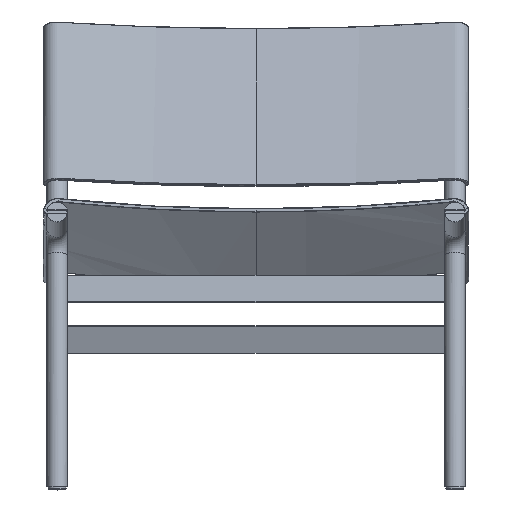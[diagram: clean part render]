
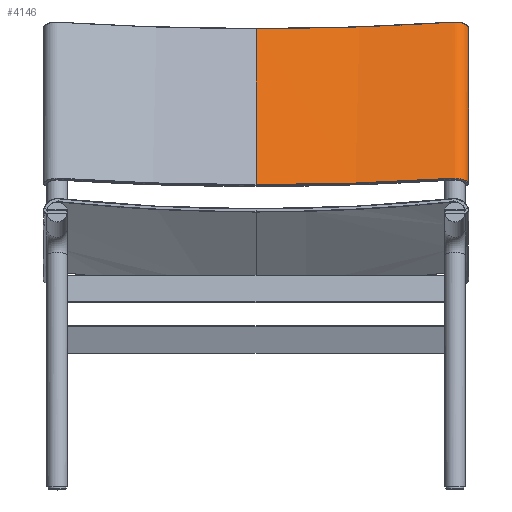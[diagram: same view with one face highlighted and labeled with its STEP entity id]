
A CAD part, front view. The second image highlights one B-rep face of the part: STEP entity #4146.
In plain terms, the highlighted free-form (B-spline) face has degree [3, 1] with [21, 2] control points.
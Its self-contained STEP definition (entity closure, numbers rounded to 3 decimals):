
#397=LINE('',#8385,#612);
#398=LINE('',#8428,#613);
#612=VECTOR('',#5140,10.);
#613=VECTOR('',#5141,10.);
#833=FACE_OUTER_BOUND('',#1129,.T.);
#1129=EDGE_LOOP('',(#2827,#2828,#2829,#2830));
#1650=B_SPLINE_CURVE_WITH_KNOTS('',3,(#7306,#7307,#7308,#7309,#7310,#7311,
#7312,#7313,#7314,#7315,#7316,#7317,#7318,#7319,#7320,#7321,#7322,#7323,
#7324,#7325,#7326),.UNSPECIFIED.,.F.,.F.,(4,3,1,1,3,1,1,1,3,1,1,1,4),(-1.,
-0.919,-0.917,-0.916,-0.914,
-0.895,-0.876,-0.867,-0.848,
-0.727,-0.485,-0.242,0.),
 .UNSPECIFIED.);
#1660=B_SPLINE_CURVE_WITH_KNOTS('',3,(#8322,#8323,#8324,#8325,#8326,#8327,
#8328,#8329,#8330,#8331,#8332,#8333,#8334,#8335,#8336,#8337,#8338,#8339,
#8340,#8341,#8342),.UNSPECIFIED.,.F.,.F.,(4,1,1,1,3,1,1,1,3,1,1,3,4),(0.,
0.242,0.485,0.727,0.848,
0.867,0.876,0.895,0.914,
0.916,0.917,0.919,1.),.UNSPECIFIED.);
#1783=VERTEX_POINT('',#7076);
#1785=VERTEX_POINT('',#7300);
#1791=VERTEX_POINT('',#8188);
#1792=VERTEX_POINT('',#8316);
#2156=EDGE_CURVE('',#1785,#1783,#1650,.T.);
#2170=EDGE_CURVE('',#1791,#1792,#1660,.T.);
#2171=EDGE_CURVE('',#1791,#1783,#397,.T.);
#2172=EDGE_CURVE('',#1792,#1785,#398,.T.);
#2827=ORIENTED_EDGE('',*,*,#2156,.F.);
#2828=ORIENTED_EDGE('',*,*,#2172,.F.);
#2829=ORIENTED_EDGE('',*,*,#2170,.F.);
#2830=ORIENTED_EDGE('',*,*,#2171,.T.);
#4039=B_SPLINE_SURFACE_WITH_KNOTS('',3,1,((#8386,#8387),(#8388,#8389),(#8390,
#8391),(#8392,#8393),(#8394,#8395),(#8396,#8397),(#8398,#8399),(#8400,#8401),
(#8402,#8403),(#8404,#8405),(#8406,#8407),(#8408,#8409),(#8410,#8411),(#8412,
#8413),(#8414,#8415),(#8416,#8417),(#8418,#8419),(#8420,#8421),(#8422,#8423),
(#8424,#8425),(#8426,#8427)),.UNSPECIFIED.,.F.,.F.,.F.,(4,1,1,1,3,1,1,1,
3,1,1,3,4),(2,2),(0.,0.242,0.485,0.727,
0.848,0.867,0.876,0.895,
0.914,0.916,0.917,0.919,
1.),(0.,30.31),.UNSPECIFIED.);
#4146=ADVANCED_FACE('',(#833),#4039,.F.);
#5140=DIRECTION('',(0.,-0.886,-0.465));
#5141=DIRECTION('',(0.,-0.886,-0.465));
#7076=CARTESIAN_POINT('',(-285.21,432.816,77.541));
#7300=CARTESIAN_POINT('',(-556.864,431.655,79.755));
#7306=CARTESIAN_POINT('Ctrl Pts',(-556.864,431.655,79.755));
#7307=CARTESIAN_POINT('Ctrl Pts',(-565.901,431.655,79.755));
#7308=CARTESIAN_POINT('Ctrl Pts',(-574.938,431.655,79.755));
#7309=CARTESIAN_POINT('Ctrl Pts',(-583.975,431.655,79.755));
#7310=CARTESIAN_POINT('Ctrl Pts',(-585.017,431.655,79.755));
#7311=CARTESIAN_POINT('Ctrl Pts',(-587.093,431.914,79.262));
#7312=CARTESIAN_POINT('Ctrl Pts',(-589.781,433.147,76.91));
#7313=CARTESIAN_POINT('Ctrl Pts',(-590.175,434.436,74.453));
#7314=CARTESIAN_POINT('Ctrl Pts',(-589.785,435.139,73.113));
#7315=CARTESIAN_POINT('Ctrl Pts',(-589.09,436.388,70.732));
#7316=CARTESIAN_POINT('Ctrl Pts',(-586.565,438.75,66.23));
#7317=CARTESIAN_POINT('Ctrl Pts',(-581.107,440.855,62.217));
#7318=CARTESIAN_POINT('Ctrl Pts',(-574.624,442.06,59.92));
#7319=CARTESIAN_POINT('Ctrl Pts',(-570.379,442.196,59.66));
#7320=CARTESIAN_POINT('Ctrl Pts',(-567.628,442.016,60.003));
#7321=CARTESIAN_POINT('Ctrl Pts',(-554.268,441.142,61.671));
#7322=CARTESIAN_POINT('Ctrl Pts',(-514.13,438.704,66.318));
#7323=CARTESIAN_POINT('Ctrl Pts',(-446.991,435.574,72.284));
#7324=CARTESIAN_POINT('Ctrl Pts',(-366.165,433.318,76.585));
#7325=CARTESIAN_POINT('Ctrl Pts',(-312.195,432.816,77.541));
#7326=CARTESIAN_POINT('Ctrl Pts',(-285.21,432.816,77.541));
#8188=CARTESIAN_POINT('',(-285.21,656.489,194.874));
#8316=CARTESIAN_POINT('',(-556.864,655.328,197.088));
#8322=CARTESIAN_POINT('Ctrl Pts',(-285.21,656.489,194.874));
#8323=CARTESIAN_POINT('Ctrl Pts',(-312.195,656.489,194.874));
#8324=CARTESIAN_POINT('Ctrl Pts',(-366.165,656.991,193.918));
#8325=CARTESIAN_POINT('Ctrl Pts',(-446.991,659.247,189.618));
#8326=CARTESIAN_POINT('Ctrl Pts',(-514.13,662.376,183.651));
#8327=CARTESIAN_POINT('Ctrl Pts',(-554.268,664.814,179.004));
#8328=CARTESIAN_POINT('Ctrl Pts',(-567.628,665.689,177.336));
#8329=CARTESIAN_POINT('Ctrl Pts',(-570.379,665.869,176.993));
#8330=CARTESIAN_POINT('Ctrl Pts',(-574.624,665.733,177.254));
#8331=CARTESIAN_POINT('Ctrl Pts',(-581.107,664.528,179.551));
#8332=CARTESIAN_POINT('Ctrl Pts',(-586.565,662.423,183.563));
#8333=CARTESIAN_POINT('Ctrl Pts',(-589.09,660.061,188.065));
#8334=CARTESIAN_POINT('Ctrl Pts',(-589.785,658.812,190.446));
#8335=CARTESIAN_POINT('Ctrl Pts',(-590.175,658.109,191.786));
#8336=CARTESIAN_POINT('Ctrl Pts',(-589.781,656.82,194.243));
#8337=CARTESIAN_POINT('Ctrl Pts',(-587.093,655.587,196.595));
#8338=CARTESIAN_POINT('Ctrl Pts',(-585.017,655.328,197.088));
#8339=CARTESIAN_POINT('Ctrl Pts',(-583.975,655.328,197.088));
#8340=CARTESIAN_POINT('Ctrl Pts',(-574.938,655.328,197.088));
#8341=CARTESIAN_POINT('Ctrl Pts',(-565.901,655.328,197.088));
#8342=CARTESIAN_POINT('Ctrl Pts',(-556.864,655.328,197.088));
#8385=CARTESIAN_POINT('',(-285.21,656.489,194.874));
#8386=CARTESIAN_POINT('Ctrl Pts',(-285.21,656.489,194.874));
#8387=CARTESIAN_POINT('Ctrl Pts',(-285.21,388.082,54.074));
#8388=CARTESIAN_POINT('Ctrl Pts',(-312.195,656.489,194.874));
#8389=CARTESIAN_POINT('Ctrl Pts',(-312.195,388.082,54.074));
#8390=CARTESIAN_POINT('Ctrl Pts',(-366.165,656.991,193.918));
#8391=CARTESIAN_POINT('Ctrl Pts',(-366.165,388.583,53.118));
#8392=CARTESIAN_POINT('Ctrl Pts',(-446.991,659.247,189.618));
#8393=CARTESIAN_POINT('Ctrl Pts',(-446.991,390.839,48.818));
#8394=CARTESIAN_POINT('Ctrl Pts',(-514.13,662.376,183.651));
#8395=CARTESIAN_POINT('Ctrl Pts',(-514.13,393.969,42.852));
#8396=CARTESIAN_POINT('Ctrl Pts',(-554.268,664.814,179.004));
#8397=CARTESIAN_POINT('Ctrl Pts',(-554.268,396.407,38.204));
#8398=CARTESIAN_POINT('Ctrl Pts',(-567.628,665.689,177.336));
#8399=CARTESIAN_POINT('Ctrl Pts',(-567.628,397.282,36.536));
#8400=CARTESIAN_POINT('Ctrl Pts',(-570.379,665.869,176.993));
#8401=CARTESIAN_POINT('Ctrl Pts',(-570.379,397.462,36.193));
#8402=CARTESIAN_POINT('Ctrl Pts',(-574.624,665.733,177.254));
#8403=CARTESIAN_POINT('Ctrl Pts',(-574.624,397.325,36.454));
#8404=CARTESIAN_POINT('Ctrl Pts',(-581.107,664.528,179.551));
#8405=CARTESIAN_POINT('Ctrl Pts',(-581.107,396.12,38.751));
#8406=CARTESIAN_POINT('Ctrl Pts',(-586.565,662.423,183.563));
#8407=CARTESIAN_POINT('Ctrl Pts',(-586.565,394.016,42.763));
#8408=CARTESIAN_POINT('Ctrl Pts',(-589.09,660.061,188.065));
#8409=CARTESIAN_POINT('Ctrl Pts',(-589.09,391.654,47.265));
#8410=CARTESIAN_POINT('Ctrl Pts',(-589.785,658.812,190.446));
#8411=CARTESIAN_POINT('Ctrl Pts',(-589.785,390.405,49.646));
#8412=CARTESIAN_POINT('Ctrl Pts',(-590.175,658.109,191.786));
#8413=CARTESIAN_POINT('Ctrl Pts',(-590.175,389.702,50.987));
#8414=CARTESIAN_POINT('Ctrl Pts',(-589.781,656.82,194.243));
#8415=CARTESIAN_POINT('Ctrl Pts',(-589.781,388.413,53.443));
#8416=CARTESIAN_POINT('Ctrl Pts',(-587.093,655.587,196.595));
#8417=CARTESIAN_POINT('Ctrl Pts',(-587.093,387.179,55.795));
#8418=CARTESIAN_POINT('Ctrl Pts',(-585.017,655.328,197.088));
#8419=CARTESIAN_POINT('Ctrl Pts',(-585.017,386.921,56.288));
#8420=CARTESIAN_POINT('Ctrl Pts',(-583.975,655.328,197.088));
#8421=CARTESIAN_POINT('Ctrl Pts',(-583.975,386.921,56.288));
#8422=CARTESIAN_POINT('Ctrl Pts',(-574.938,655.328,197.088));
#8423=CARTESIAN_POINT('Ctrl Pts',(-574.938,386.921,56.288));
#8424=CARTESIAN_POINT('Ctrl Pts',(-565.901,655.328,197.088));
#8425=CARTESIAN_POINT('Ctrl Pts',(-565.901,386.921,56.288));
#8426=CARTESIAN_POINT('Ctrl Pts',(-556.864,655.328,197.088));
#8427=CARTESIAN_POINT('Ctrl Pts',(-556.864,386.921,56.288));
#8428=CARTESIAN_POINT('',(-556.864,655.328,197.088));
